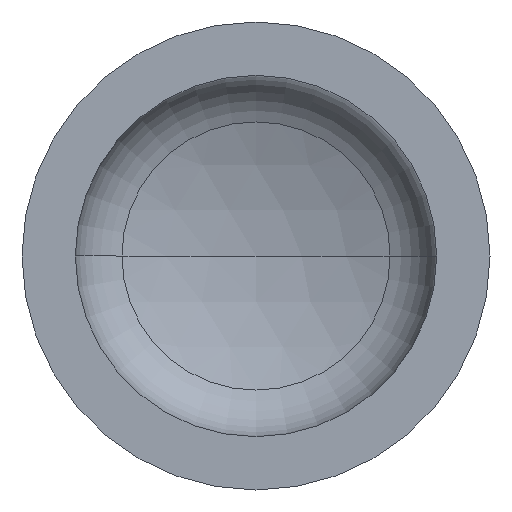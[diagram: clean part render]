
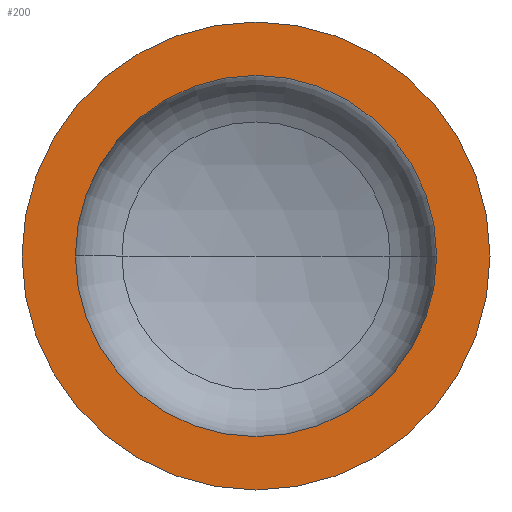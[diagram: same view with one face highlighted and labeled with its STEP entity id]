
A CAD part, front view. The second image highlights one B-rep face of the part: STEP entity #200.
In plain terms, the highlighted planar face has unit normal (0, -1, 0).
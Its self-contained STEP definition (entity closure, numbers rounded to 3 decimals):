
#2 = CARTESIAN_POINT ( 'NONE',  ( 0., 0., 0. ) ) ;
#5 = VERTEX_POINT ( 'NONE', #233 ) ;
#10 = EDGE_LOOP ( 'NONE', ( #98, #64 ) ) ;
#15 = DIRECTION ( 'NONE',  ( 0., -1., 0. ) ) ;
#23 = ORIENTED_EDGE ( 'NONE', *, *, #258, .F. ) ;
#42 = EDGE_LOOP ( 'NONE', ( #23, #97 ) ) ;
#50 = VERTEX_POINT ( 'NONE', #201 ) ;
#64 = ORIENTED_EDGE ( 'NONE', *, *, #288, .T. ) ;
#82 = CARTESIAN_POINT ( 'NONE',  ( 0., 0., 0. ) ) ;
#92 = AXIS2_PLACEMENT_3D ( 'NONE', #82, #15, #269 ) ;
#97 = ORIENTED_EDGE ( 'NONE', *, *, #394, .F. ) ;
#98 = ORIENTED_EDGE ( 'NONE', *, *, #205, .T. ) ;
#109 = AXIS2_PLACEMENT_3D ( 'NONE', #2, #347, #191 ) ;
#119 = CIRCLE ( 'NONE', #248, 386. ) ;
#121 = VERTEX_POINT ( 'NONE', #315 ) ;
#131 = AXIS2_PLACEMENT_3D ( 'NONE', #158, #396, #245 ) ;
#138 = FACE_OUTER_BOUND ( 'NONE', #10, .T. ) ;
#151 = CIRCLE ( 'NONE', #92, 386. ) ;
#158 = CARTESIAN_POINT ( 'NONE',  ( -500., 0., 0. ) ) ;
#187 = CARTESIAN_POINT ( 'NONE',  ( 386., 0., 0. ) ) ;
#191 = DIRECTION ( 'NONE',  ( 1., 0., 0. ) ) ;
#200 = ADVANCED_FACE ( 'NONE', ( #282, #138 ), #300, .F. ) ;
#201 = CARTESIAN_POINT ( 'NONE',  ( -386., 0., 0. ) ) ;
#205 = EDGE_CURVE ( 'NONE', #121, #5, #275, .T. ) ;
#214 = CARTESIAN_POINT ( 'NONE',  ( 0., 0., 0. ) ) ;
#219 = DIRECTION ( 'NONE',  ( 0., -1., 0. ) ) ;
#233 = CARTESIAN_POINT ( 'NONE',  ( -500., 0., 0. ) ) ;
#245 = DIRECTION ( 'NONE',  ( -1., 0., 0. ) ) ;
#248 = AXIS2_PLACEMENT_3D ( 'NONE', #403, #400, #387 ) ;
#258 = EDGE_CURVE ( 'NONE', #320, #50, #119, .T. ) ;
#269 = DIRECTION ( 'NONE',  ( 1., 0., 0. ) ) ;
#275 = CIRCLE ( 'NONE', #109, 500. ) ;
#278 = AXIS2_PLACEMENT_3D ( 'NONE', #214, #219, #356 ) ;
#282 = FACE_BOUND ( 'NONE', #42, .T. ) ;
#288 = EDGE_CURVE ( 'NONE', #5, #121, #388, .T. ) ;
#300 = PLANE ( 'NONE',  #131 ) ;
#315 = CARTESIAN_POINT ( 'NONE',  ( 500., 0., 0. ) ) ;
#320 = VERTEX_POINT ( 'NONE', #187 ) ;
#347 = DIRECTION ( 'NONE',  ( 0., -1., 0. ) ) ;
#356 = DIRECTION ( 'NONE',  ( 1., 0., 0. ) ) ;
#387 = DIRECTION ( 'NONE',  ( 1., 0., 0. ) ) ;
#388 = CIRCLE ( 'NONE', #278, 500. ) ;
#394 = EDGE_CURVE ( 'NONE', #50, #320, #151, .T. ) ;
#396 = DIRECTION ( 'NONE',  ( 0., 1., 0. ) ) ;
#400 = DIRECTION ( 'NONE',  ( 0., -1., 0. ) ) ;
#403 = CARTESIAN_POINT ( 'NONE',  ( 0., 0., 0. ) ) ;
